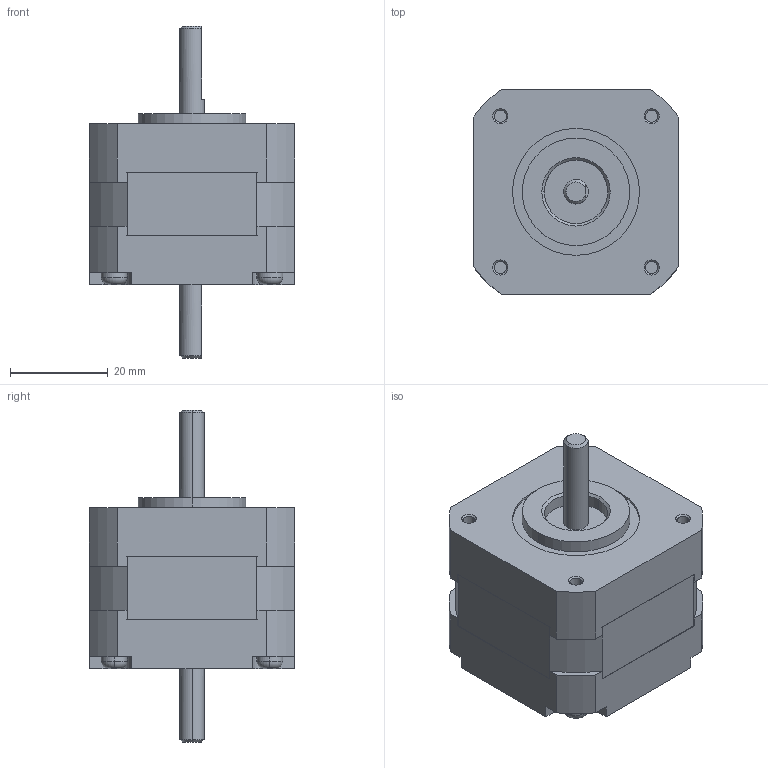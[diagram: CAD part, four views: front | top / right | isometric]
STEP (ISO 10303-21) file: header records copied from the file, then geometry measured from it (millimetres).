
FILE_DESCRIPTION (( 'STEP AP214' ), '1' );
FILE_NAME ('TS3617N11.STEP', '2011-09-15T08:48:38', ( '' ), ( '' ), 'SwSTEP 2.0', 'SolidWorks 2010', '' );
FILE_SCHEMA (( 'AUTOMOTIVE_DESIGN' ));
Length unit declared in the file: millimetre
Products named in the file (1): TS3617N11
Bounding box: 42 x 42 x 68 mm (x, y, z)
Volume: 55954.2 mm3; surface area: 13672.5 mm2
Topology: 2 solids, 2 shells, 195 faces, 512 edges, 332 vertices
Faces by surface type: plane 99, cylinder 72, cone 16, torus 8
Entity records: 6400 total; most frequent: CARTESIAN_POINT 1320, DIRECTION 1060, ORIENTED_EDGE 1024, EDGE_CURVE 512, AXIS2_PLACEMENT_3D 388, VERTEX_POINT 332, LINE 284, VECTOR 284
